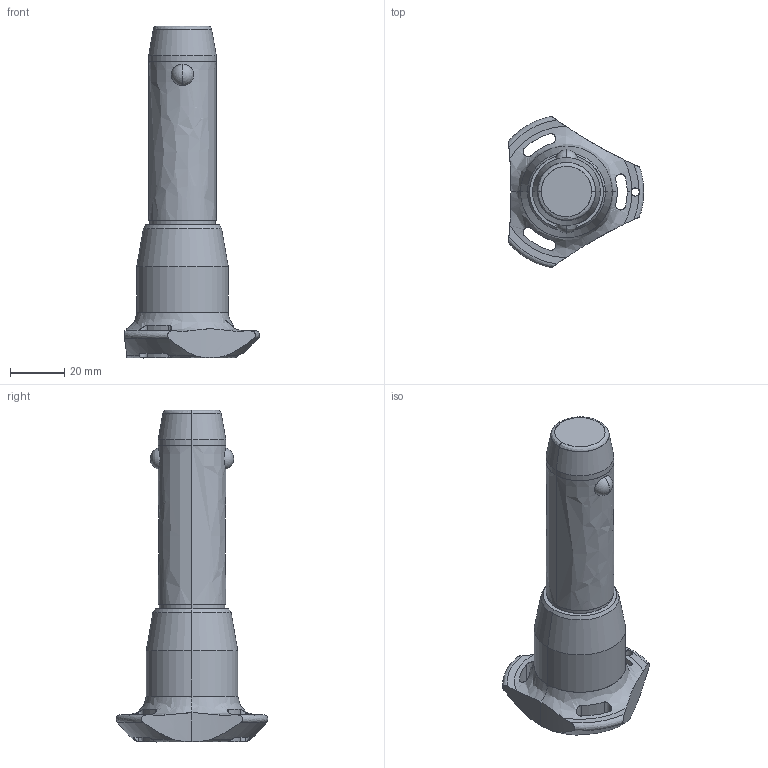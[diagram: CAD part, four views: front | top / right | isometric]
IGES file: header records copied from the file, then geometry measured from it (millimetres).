
Start section: SolidWorks IGES file using analytic representation for surfaces
Global section: file name: C:\Users\ianosborn\Desktop\QR1726_v2\QR1726_v2_20251115_IGES\QR1726.M25-050-T.igs; native system: SolidWorks 2019; preprocessor: SolidWorks 2019; author: IanOsborn; date: 251113.112752; units: millimetre
Bounding box: 50.04 x 56.02 x 122.7 mm (x, y, z)
Surface area: 15376.8 mm2 (no closed solid volume)
Topology: 0 solids, 0 shells, 68 faces, 1382 edges, 1378 vertices
Faces by surface type: revolution 52, bspline 16
